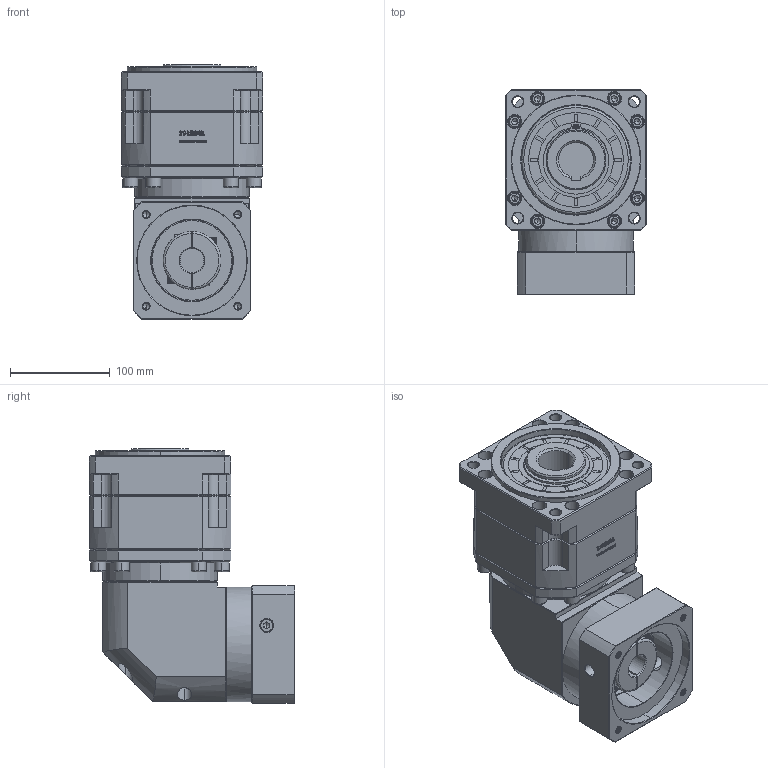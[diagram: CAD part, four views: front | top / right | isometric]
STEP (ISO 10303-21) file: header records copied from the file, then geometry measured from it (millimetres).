
FILE_DESCRIPTION (( 'STEP AP214' ), '1' );
FILE_NAME ('ZBR142A-K35-L2-24-110-130-M8.step', '2023-03-20T04:15:23', ( '' ), ( '' ), 'SwSTEP 2.0', 'SolidWorks 2016', '' );
FILE_SCHEMA (( 'AUTOMOTIVE_DESIGN' ));
Length unit declared in the file: millimetre
Products named in the file (1): ZBR142A-K35-L2-24-110-130-M8
Bounding box: 142 x 205.9 x 255.2 mm (x, y, z)
Volume: 4209522.6 mm3; surface area: 312018.7 mm2
Topology: 6 solids, 6 shells, 3132 faces, 8273 edges, 5308 vertices
Faces by surface type: plane 1645, bspline 585, cylinder 465, cone 393, torus 44
Entity records: 164234 total; most frequent: CARTESIAN_POINT 56694, ORIENTED_EDGE 16442, DIRECTION 12904, EDGE_CURVE 8221, LINE 5532, VECTOR 5532, VERTEX_POINT 5308, AXIS2_PLACEMENT_3D 3686
